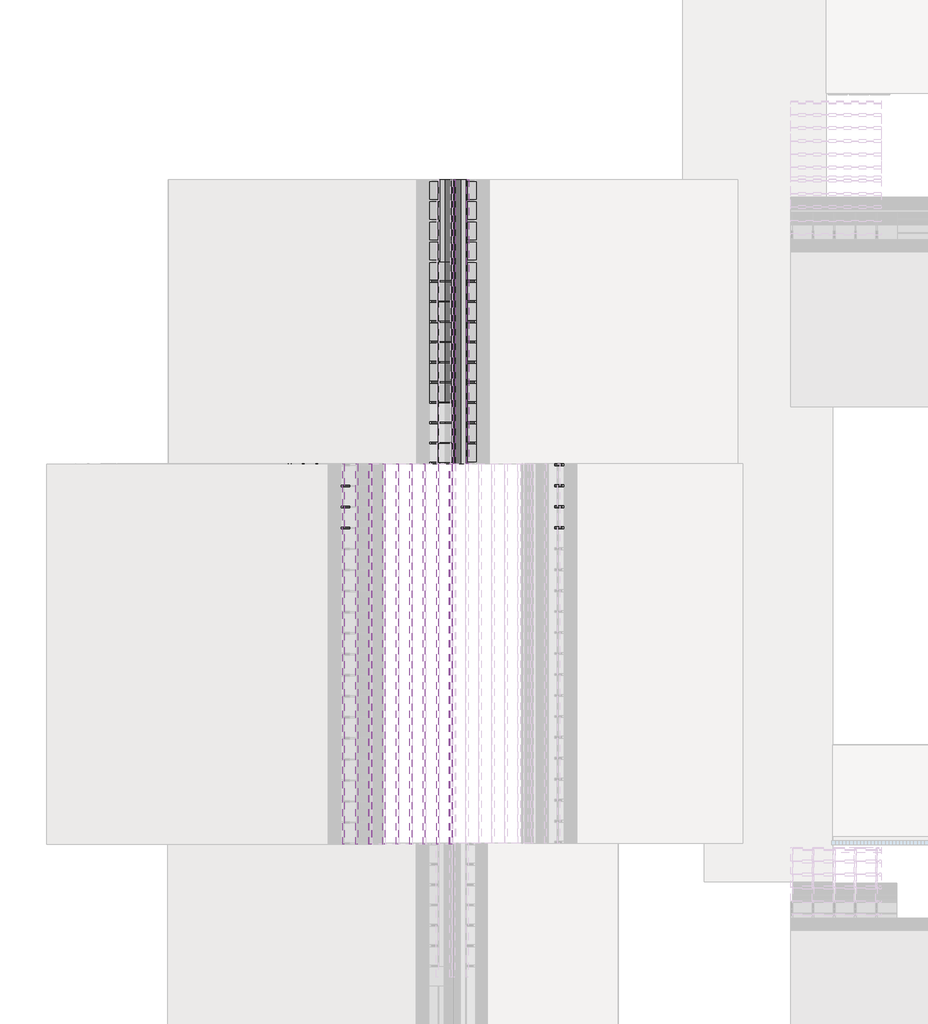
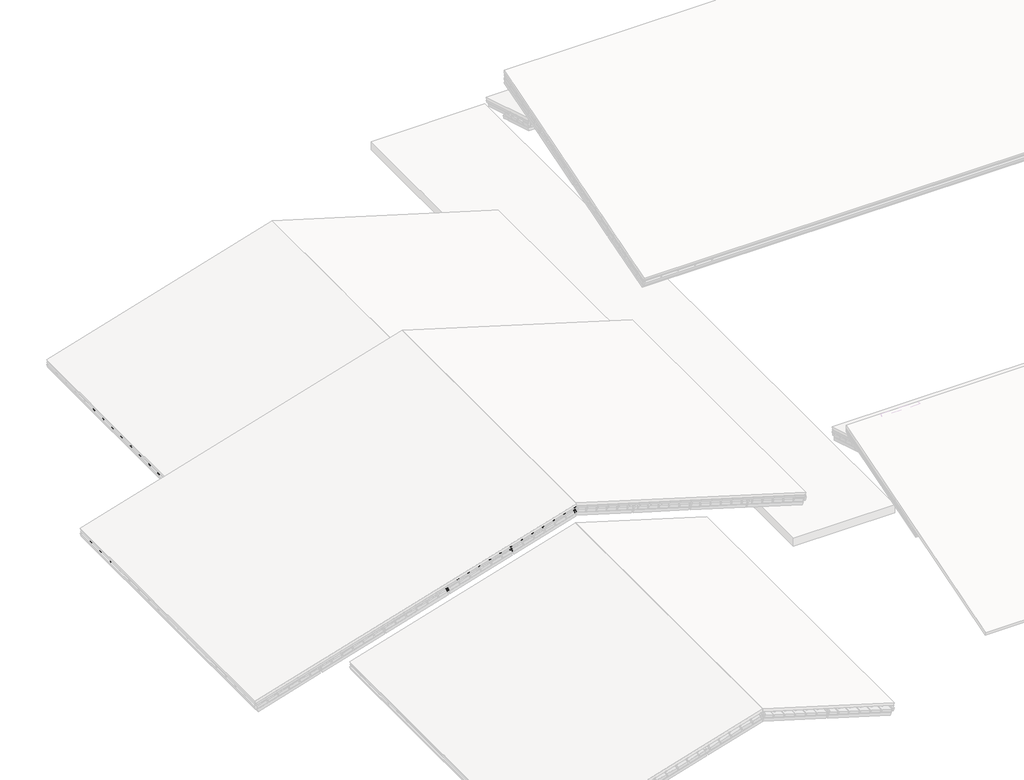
# One storey, part 5 of 57: 67 members, 54 plates.
"""IFC4 building model written with IfcOpenShell, lengths in millimetres."""

from ifc_helpers import new_model, si_unit, origin, place, context, project, spatial, transform, mapped, element, save
from components import rectangular_mullion_77964d67, rectangular_mullion_b55daf23, rectangular_mullion_698b6ac7, rectangular_mullion_2b643e74, rectangular_mullion_27214645, rectangular_mullion_a8aa870b, rectangular_mullion_caibro_1cbfab12, rectangular_mullion_caibro_0a25a9c4, rectangular_mullion_caibro_a2a3702c, rectangular_mullion_caibro_03bd0296, rectangular_mullion_caibro_00db0e03, rectangular_mullion_caibro_3e452d7c, empty_system_panel_vazio_6e7ed4e6, empty_system_panel_vazio_172ca776, empty_system_panel_vazio_baf5ca11, empty_system_panel_vazio_8cae14d4, empty_system_panel_vazio_9a4384e5

model = new_model("IFC4")

# Units and contexts
model_context = context("Model", 3, world=origin())
ifc_project = project(units=[si_unit("LENGTHUNIT", "METRE", prefix="MILLI")], contexts=[model_context])

# Site, building, storey
site = spatial("IfcSite", under=ifc_project)
building = spatial("IfcBuilding", under=site)
storey = spatial("IfcBuildingStorey", under=building, Name="Nível 2", Elevation=4100.0)

# Members
placement = place(None, origin())
rectangular_mullion_shape = rectangular_mullion_77964d67(model_context)
element("IfcMember", 1, ObjectType="Rectangular Mullion : Ripa", at=placement, inside=storey, context=model_context, shape_type="MappedRepresentation", body=[
    mapped(rectangular_mullion_shape, transform((-67.0690911, 26350.3088684, 3109.7769943), x_axis=(-0.9578262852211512, 0.0, 0.287347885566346), y_axis=(-0.287347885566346, 0.0, -0.9578262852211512), z_axis=(0.0, -1.0, 0.0))),
])
element("IfcMember", 2, ObjectType="Rectangular Mullion : Ripa", at=placement, inside=storey, context=model_context, shape_type="MappedRepresentation", body=[
    mapped(rectangular_mullion_shape, transform((-434.0406319, 26350.3088684, 3219.8684565), x_axis=(-0.9578262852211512, 0.0, 0.287347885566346), y_axis=(-0.287347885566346, 0.0, -0.9578262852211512), z_axis=(0.0, -1.0, 0.0))),
])
element("IfcMember", 3, ObjectType="Rectangular Mullion : Ripa", at=placement, inside=storey, context=model_context, shape_type="MappedRepresentation", body=[
    mapped(rectangular_mullion_shape, transform((-801.0121727, 26350.3088684, 3329.9599187), x_axis=(-0.9578262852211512, 0.0, 0.287347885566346), y_axis=(-0.287347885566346, 0.0, -0.9578262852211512), z_axis=(0.0, -1.0, 0.0))),
])
element("IfcMember", 4, ObjectType="Rectangular Mullion : Ripa", at=placement, inside=storey, context=model_context, shape_type="MappedRepresentation", body=[
    mapped(rectangular_mullion_shape, transform((-1167.9837135, 26350.3088684, 3440.051381), x_axis=(-0.9578262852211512, 0.0, 0.287347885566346), y_axis=(-0.287347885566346, 0.0, -0.9578262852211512), z_axis=(0.0, -1.0, 0.0))),
])
element("IfcMember", 5, ObjectType="Rectangular Mullion : Ripa", at=placement, inside=storey, context=model_context, shape_type="MappedRepresentation", body=[
    mapped(rectangular_mullion_shape, transform((-1534.9552543, 26350.3088684, 3550.1428432), x_axis=(-0.9578262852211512, 0.0, 0.287347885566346), y_axis=(-0.287347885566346, 0.0, -0.9578262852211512), z_axis=(0.0, -1.0, 0.0))),
])
element("IfcMember", 6, ObjectType="Rectangular Mullion : Ripa", at=placement, inside=storey, context=model_context, shape_type="MappedRepresentation", body=[
    mapped(rectangular_mullion_shape, transform((-1901.926795, 26350.3088684, 3660.2343054), x_axis=(-0.9578262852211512, 0.0, 0.287347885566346), y_axis=(-0.287347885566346, 0.0, -0.9578262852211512), z_axis=(0.0, -1.0, 0.0))),
])
element("IfcMember", 7, ObjectType="Rectangular Mullion : Ripa", at=placement, inside=storey, context=model_context, shape_type="MappedRepresentation", body=[
    mapped(rectangular_mullion_shape, transform((-2268.8983358, 26350.3088684, 3770.3257677), x_axis=(-0.9578262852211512, 0.0, 0.287347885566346), y_axis=(-0.287347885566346, 0.0, -0.9578262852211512), z_axis=(0.0, -1.0, 0.0))),
])
element("IfcMember", 8, ObjectType="Rectangular Mullion : Ripa", at=placement, inside=storey, context=model_context, shape_type="MappedRepresentation", body=[
    mapped(rectangular_mullion_shape, transform((-2635.8698766, 26350.3088684, 3880.4172299), x_axis=(-0.9578262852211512, 0.0, 0.287347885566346), y_axis=(-0.287347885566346, 0.0, -0.9578262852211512), z_axis=(0.0, -1.0, 0.0))),
])
element("IfcMember", 9, ObjectType="Rectangular Mullion : Ripa", at=placement, inside=storey, context=model_context, shape_type="MappedRepresentation", body=[
    mapped(rectangular_mullion_shape, transform((-3002.8414174, 26350.3088684, 3990.5086921), x_axis=(-0.9578262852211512, 0.0, 0.287347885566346), y_axis=(-0.287347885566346, 0.0, -0.9578262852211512), z_axis=(0.0, -1.0, 0.0))),
])
element("IfcMember", 10, ObjectType="Rectangular Mullion : Ripa", at=placement, inside=storey, context=model_context, shape_type="MappedRepresentation", body=[
    mapped(rectangular_mullion_shape, transform((-3369.8129582, 26350.3088684, 4100.6001544), x_axis=(-0.9578262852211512, 0.0, 0.287347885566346), y_axis=(-0.287347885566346, 0.0, -0.9578262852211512), z_axis=(0.0, -1.0, 0.0))),
])
element("IfcMember", 11, ObjectType="Rectangular Mullion : Ripa", at=placement, inside=storey, context=model_context, shape_type="MappedRepresentation", body=[
    mapped(rectangular_mullion_shape, transform((-3736.7844989, 26350.3088684, 4210.6916166), x_axis=(-0.9578262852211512, 0.0, 0.287347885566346), y_axis=(-0.287347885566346, 0.0, -0.9578262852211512), z_axis=(0.0, -1.0, 0.0))),
])
element("IfcMember", 12, ObjectType="Rectangular Mullion : Ripa", at=placement, inside=storey, context=model_context, shape_type="MappedRepresentation", body=[
    mapped(rectangular_mullion_shape, transform((-4103.7560397, 26350.3088684, 4320.7830788), x_axis=(-0.9578262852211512, 0.0, 0.287347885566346), y_axis=(-0.287347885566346, 0.0, -0.9578262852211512), z_axis=(0.0, -1.0, 0.0))),
])
element("IfcMember", 13, ObjectType="Rectangular Mullion : Ripa", at=placement, inside=storey, context=model_context, shape_type="MappedRepresentation", body=[
    mapped(rectangular_mullion_shape, transform((-4470.7275805, 26350.3088684, 4430.8745411), x_axis=(-0.9578262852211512, 0.0, 0.287347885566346), y_axis=(-0.287347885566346, 0.0, -0.9578262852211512), z_axis=(0.0, -1.0, 0.0))),
])
element("IfcMember", 14, ObjectType="Rectangular Mullion : Ripa", at=placement, inside=storey, context=model_context, shape_type="MappedRepresentation", body=[
    mapped(rectangular_mullion_shape, transform((-4837.6991213, 26350.3088684, 4540.9660033), x_axis=(-0.9578262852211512, 0.0, 0.287347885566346), y_axis=(-0.287347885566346, 0.0, -0.9578262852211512), z_axis=(0.0, -1.0, 0.0))),
])
element("IfcMember", 15, ObjectType="Rectangular Mullion : Ripa", at=placement, inside=storey, context=model_context, shape_type="MappedRepresentation", body=[
    mapped(rectangular_mullion_shape, transform((-5204.6706621, 26350.3088684, 4651.0574655), x_axis=(-0.9578262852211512, 0.0, 0.287347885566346), y_axis=(-0.287347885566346, 0.0, -0.9578262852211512), z_axis=(0.0, -1.0, 0.0))),
])
element("IfcMember", 16, ObjectType="Rectangular Mullion : Ripa", at=placement, inside=storey, context=model_context, shape_type="MappedRepresentation", body=[
    mapped(rectangular_mullion_shape, transform((-5571.6422028, 26350.3088684, 4761.1489278), x_axis=(-0.9578262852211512, 0.0, 0.287347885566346), y_axis=(-0.287347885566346, 0.0, -0.9578262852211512), z_axis=(0.0, -1.0, 0.0))),
])
element("IfcMember", 17, ObjectType="Rectangular Mullion : Ripa", at=placement, inside=storey, context=model_context, shape_type="MappedRepresentation", body=[
    mapped(rectangular_mullion_shape, transform((-5938.6137436, 26350.3088684, 4871.24039), x_axis=(-0.9578262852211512, 0.0, 0.287347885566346), y_axis=(-0.287347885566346, 0.0, -0.9578262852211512), z_axis=(0.0, -1.0, 0.0))),
])
element("IfcMember", 18, ObjectType="Rectangular Mullion : Ripa", at=placement, inside=storey, context=model_context, shape_type="MappedRepresentation", body=[
    mapped(rectangular_mullion_shape, transform((-6305.5852844, 26350.3088684, 4981.3318522), x_axis=(-0.9578262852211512, 0.0, 0.287347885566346), y_axis=(-0.287347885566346, 0.0, -0.9578262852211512), z_axis=(0.0, -1.0, 0.0))),
])
element("IfcMember", 19, ObjectType="Rectangular Mullion : Ripa", at=placement, inside=storey, context=model_context, shape_type="MappedRepresentation", body=[
    mapped(rectangular_mullion_shape, transform((-6672.5568252, 26350.3088684, 5091.4233145), x_axis=(-0.9578262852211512, 0.0, 0.287347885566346), y_axis=(-0.287347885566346, 0.0, -0.9578262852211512), z_axis=(0.0, -1.0, 0.0))),
])
element("IfcMember", 20, ObjectType="Rectangular Mullion : Ripa", at=placement, inside=storey, context=model_context, shape_type="MappedRepresentation", body=[
    mapped(rectangular_mullion_shape, transform((-7039.528366, 26350.3088684, 5201.5147767), x_axis=(-0.9578262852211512, 0.0, 0.287347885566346), y_axis=(-0.287347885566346, 0.0, -0.9578262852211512), z_axis=(0.0, -1.0, 0.0))),
])
element("IfcMember", 21, ObjectType="Rectangular Mullion : Ripa", at=placement, inside=storey, context=model_context, shape_type="MappedRepresentation", body=[
    mapped(rectangular_mullion_shape, transform((-7406.4999067, 26350.3088684, 5311.6062389), x_axis=(-0.9578262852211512, 0.0, 0.287347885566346), y_axis=(-0.287347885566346, 0.0, -0.9578262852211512), z_axis=(0.0, -1.0, 0.0))),
])
element("IfcMember", 22, ObjectType="Rectangular Mullion : Ripa", at=placement, inside=storey, context=model_context, shape_type="MappedRepresentation", body=[
    mapped(rectangular_mullion_shape, transform((-7773.4714475, 26350.3088684, 5421.6977012), x_axis=(-0.9578262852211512, 0.0, 0.287347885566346), y_axis=(-0.287347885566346, 0.0, -0.9578262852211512), z_axis=(0.0, -1.0, 0.0))),
])
rectangular_mullion_2_shape = rectangular_mullion_b55daf23(model_context)
element("IfcMember", 23, ObjectType="Rectangular Mullion : Terça", at=placement, inside=storey, context=model_context, shape_type="MappedRepresentation", body=[
    mapped(rectangular_mullion_2_shape, transform((-7773.4714475, 26350.3088684, 5296.4140231), x_axis=(-0.9578262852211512, 0.0, 0.287347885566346), y_axis=(-0.287347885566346, 0.0, -0.9578262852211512), z_axis=(0.0, -1.0, 0.0))),
])
rectangular_mullion_3_shape = rectangular_mullion_698b6ac7(model_context)
element("IfcMember", 24, ObjectType="Rectangular Mullion : Terça", at=placement, inside=storey, context=model_context, shape_type="MappedRepresentation", body=[
    mapped(rectangular_mullion_3_shape, transform((-1696.8899332, 26350.3088684, 3473.4395688), x_axis=(-0.9578262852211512, 0.0, 0.287347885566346), y_axis=(-0.287347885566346, 0.0, -0.9578262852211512), z_axis=(0.0, -1.0, 0.0))),
])
element("IfcMember", 25, ObjectType="Rectangular Mullion : Terça", at=placement, inside=storey, context=model_context, shape_type="MappedRepresentation", body=[
    mapped(rectangular_mullion_3_shape, transform((-3712.8388418, 26350.3088684, 4078.2242414), x_axis=(-0.9578262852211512, 0.0, 0.287347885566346), y_axis=(-0.287347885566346, 0.0, -0.9578262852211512), z_axis=(0.0, -1.0, 0.0))),
])
element("IfcMember", 26, ObjectType="Rectangular Mullion : Terça", at=placement, inside=storey, context=model_context, shape_type="MappedRepresentation", body=[
    mapped(rectangular_mullion_3_shape, transform((-5728.7877504, 26350.3088684, 4683.0089139), x_axis=(-0.9578262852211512, 0.0, 0.287347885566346), y_axis=(-0.287347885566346, 0.0, -0.9578262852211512), z_axis=(0.0, -1.0, 0.0))),
])
rectangular_mullion_4_shape = rectangular_mullion_2b643e74(model_context)
element("IfcMember", 27, ObjectType="Rectangular Mullion : Ripa", at=placement, inside=storey, context=model_context, shape_type="MappedRepresentation", body=[
    mapped(rectangular_mullion_4_shape, transform((-11943.9606945, 26350.3088684, 4918.0675509), x_axis=(0.9578262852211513, 0.0, 0.2873478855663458), y_axis=(0.2873478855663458, 0.0, -0.9578262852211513), z_axis=(0.0, 1.0, 0.0))),
])
element("IfcMember", 28, ObjectType="Rectangular Mullion : Ripa", at=placement, inside=storey, context=model_context, shape_type="MappedRepresentation", body=[
    mapped(rectangular_mullion_4_shape, transform((-11566.1743753, 26350.3088684, 5031.4034467), x_axis=(0.9578262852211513, 0.0, 0.2873478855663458), y_axis=(0.2873478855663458, 0.0, -0.9578262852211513), z_axis=(0.0, 1.0, 0.0))),
])
element("IfcMember", 29, ObjectType="Rectangular Mullion : Ripa", at=placement, inside=storey, context=model_context, shape_type="MappedRepresentation", body=[
    mapped(rectangular_mullion_4_shape, transform((-11188.3880562, 26350.3088684, 5144.7393424), x_axis=(0.9578262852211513, 0.0, 0.2873478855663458), y_axis=(0.2873478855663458, 0.0, -0.9578262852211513), z_axis=(0.0, 1.0, 0.0))),
])
element("IfcMember", 30, ObjectType="Rectangular Mullion : Ripa", at=placement, inside=storey, context=model_context, shape_type="MappedRepresentation", body=[
    mapped(rectangular_mullion_4_shape, transform((-10810.6017371, 26350.3088684, 5258.0752381), x_axis=(0.9578262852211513, 0.0, 0.2873478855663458), y_axis=(0.2873478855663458, 0.0, -0.9578262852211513), z_axis=(0.0, 1.0, 0.0))),
])
element("IfcMember", 31, ObjectType="Rectangular Mullion : Ripa", at=placement, inside=storey, context=model_context, shape_type="MappedRepresentation", body=[
    mapped(rectangular_mullion_4_shape, transform((-10432.815418, 26350.3088684, 5371.4111339), x_axis=(0.9578262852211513, 0.0, 0.2873478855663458), y_axis=(0.2873478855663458, 0.0, -0.9578262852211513), z_axis=(0.0, 1.0, 0.0))),
])
element("IfcMember", 32, ObjectType="Rectangular Mullion : Ripa", at=placement, inside=storey, context=model_context, shape_type="MappedRepresentation", body=[
    mapped(rectangular_mullion_4_shape, transform((-10055.0290989, 26350.3088684, 5484.7470296), x_axis=(0.9578262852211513, 0.0, 0.2873478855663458), y_axis=(0.2873478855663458, 0.0, -0.9578262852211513), z_axis=(0.0, 1.0, 0.0))),
])
element("IfcMember", 33, ObjectType="Rectangular Mullion : Ripa", at=placement, inside=storey, context=model_context, shape_type="MappedRepresentation", body=[
    mapped(rectangular_mullion_4_shape, transform((-9677.2427798, 26350.3088684, 5598.0829253), x_axis=(0.9578262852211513, 0.0, 0.2873478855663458), y_axis=(0.2873478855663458, 0.0, -0.9578262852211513), z_axis=(0.0, 1.0, 0.0))),
])
element("IfcMember", 34, ObjectType="Rectangular Mullion : Ripa", at=placement, inside=storey, context=model_context, shape_type="MappedRepresentation", body=[
    mapped(rectangular_mullion_4_shape, transform((-9299.4564607, 26350.3088684, 5711.418821), x_axis=(0.9578262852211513, 0.0, 0.2873478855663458), y_axis=(0.2873478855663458, 0.0, -0.9578262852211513), z_axis=(0.0, 1.0, 0.0))),
])
element("IfcMember", 35, ObjectType="Rectangular Mullion : Ripa", at=placement, inside=storey, context=model_context, shape_type="MappedRepresentation", body=[
    mapped(rectangular_mullion_4_shape, transform((-8921.6701416, 26350.3088684, 5824.7547168), x_axis=(0.9578262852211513, 0.0, 0.2873478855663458), y_axis=(0.2873478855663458, 0.0, -0.9578262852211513), z_axis=(0.0, 1.0, 0.0))),
])
element("IfcMember", 36, ObjectType="Rectangular Mullion : Ripa", at=placement, inside=storey, context=model_context, shape_type="MappedRepresentation", body=[
    mapped(rectangular_mullion_4_shape, transform((-8543.8838225, 26350.3088684, 5938.0906125), x_axis=(0.9578262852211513, 0.0, 0.2873478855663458), y_axis=(0.2873478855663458, 0.0, -0.9578262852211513), z_axis=(0.0, 1.0, 0.0))),
])
element("IfcMember", 37, ObjectType="Rectangular Mullion : Ripa", at=placement, inside=storey, context=model_context, shape_type="MappedRepresentation", body=[
    mapped(rectangular_mullion_4_shape, transform((-8166.0975034, 26350.3088684, 6051.4265082), x_axis=(0.9578262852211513, 0.0, 0.2873478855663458), y_axis=(0.2873478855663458, 0.0, -0.9578262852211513), z_axis=(0.0, 1.0, 0.0))),
])
element("IfcMember", 38, ObjectType="Rectangular Mullion : Ripa", at=placement, inside=storey, context=model_context, shape_type="MappedRepresentation", body=[
    mapped(rectangular_mullion_4_shape, transform((-7788.3111843, 26350.3088684, 6164.762404), x_axis=(0.9578262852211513, 0.0, 0.2873478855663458), y_axis=(0.2873478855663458, 0.0, -0.9578262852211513), z_axis=(0.0, 1.0, 0.0))),
])
rectangular_mullion_5_shape = rectangular_mullion_27214645(model_context)
element("IfcMember", 39, ObjectType="Rectangular Mullion : Terça", at=placement, inside=storey, context=model_context, shape_type="MappedRepresentation", body=[
    mapped(rectangular_mullion_5_shape, transform((-7788.3111843, 26350.3088684, 6039.4787259), x_axis=(0.9578262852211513, 0.0, 0.2873478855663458), y_axis=(0.2873478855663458, 0.0, -0.9578262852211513), z_axis=(0.0, 1.0, 0.0))),
])
rectangular_mullion_6_shape = rectangular_mullion_a8aa870b(model_context)
element("IfcMember", 40, ObjectType="Rectangular Mullion : Terça", at=placement, inside=storey, context=model_context, shape_type="MappedRepresentation", body=[
    mapped(rectangular_mullion_6_shape, transform((-12346.650497, 26350.3088684, 4671.9769321), x_axis=(0.9578262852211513, 0.0, 0.2873478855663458), y_axis=(0.2873478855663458, 0.0, -0.9578262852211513), z_axis=(0.0, 1.0, 0.0))),
])
element("IfcMember", 41, ObjectType="Rectangular Mullion : Terça", at=placement, inside=storey, context=model_context, shape_type="MappedRepresentation", body=[
    mapped(rectangular_mullion_6_shape, transform((-10081.8482349, 26350.3088684, 5351.4176107), x_axis=(0.9578262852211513, 0.0, 0.2873478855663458), y_axis=(0.2873478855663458, 0.0, -0.9578262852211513), z_axis=(0.0, 1.0, 0.0))),
])
rectangular_mullion_caibro_shape = rectangular_mullion_caibro_1cbfab12(model_context)
element("IfcMember", 42, ObjectType="Rectangular Mullion : Caibro", at=placement, inside=storey, context=model_context, shape_type="MappedRepresentation", body=[
    mapped(rectangular_mullion_caibro_shape, transform((-7773.4714475, 26350.3088684, 5421.6977012), x_axis=(0.0, -1.0, 0.0), y_axis=(0.28734788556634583, 0.0, -0.9578262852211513), z_axis=(0.9578262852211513, 0.0, 0.28734788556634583))),
])
rectangular_mullion_caibro_2_shape = rectangular_mullion_caibro_0a25a9c4(model_context)
element("IfcMember", 43, ObjectType="Rectangular Mullion : Caibro", at=placement, inside=storey, context=model_context, shape_type="MappedRepresentation", body=[
    mapped(rectangular_mullion_caibro_2_shape, transform((-7773.4714475, 31486.023154, 5421.6977012), x_axis=(0.0, -1.0, 0.0), y_axis=(0.28734788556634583, 0.0, -0.9578262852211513), z_axis=(0.9578262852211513, 0.0, 0.28734788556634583))),
])
element("IfcMember", 44, ObjectType="Rectangular Mullion : Caibro", at=placement, inside=storey, context=model_context, shape_type="MappedRepresentation", body=[
    mapped(rectangular_mullion_caibro_2_shape, transform((-7773.4714475, 30918.1660112, 5421.6977012), x_axis=(0.0, -1.0, 0.0), y_axis=(0.28734788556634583, 0.0, -0.9578262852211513), z_axis=(0.9578262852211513, 0.0, 0.28734788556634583))),
])
element("IfcMember", 45, ObjectType="Rectangular Mullion : Caibro", at=placement, inside=storey, context=model_context, shape_type="MappedRepresentation", body=[
    mapped(rectangular_mullion_caibro_2_shape, transform((-7773.4714475, 30350.3088684, 5421.6977012), x_axis=(0.0, -1.0, 0.0), y_axis=(0.28734788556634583, 0.0, -0.9578262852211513), z_axis=(0.9578262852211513, 0.0, 0.28734788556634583))),
])
element("IfcMember", 46, ObjectType="Rectangular Mullion : Caibro", at=placement, inside=storey, context=model_context, shape_type="MappedRepresentation", body=[
    mapped(rectangular_mullion_caibro_2_shape, transform((-7773.4714475, 29782.4517256, 5421.6977012), x_axis=(0.0, -1.0, 0.0), y_axis=(0.28734788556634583, 0.0, -0.9578262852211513), z_axis=(0.9578262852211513, 0.0, 0.28734788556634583))),
])
element("IfcMember", 47, ObjectType="Rectangular Mullion : Caibro", at=placement, inside=storey, context=model_context, shape_type="MappedRepresentation", body=[
    mapped(rectangular_mullion_caibro_2_shape, transform((-7773.4714475, 29214.5945827, 5421.6977012), x_axis=(0.0, -1.0, 0.0), y_axis=(0.28734788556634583, 0.0, -0.9578262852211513), z_axis=(0.9578262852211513, 0.0, 0.28734788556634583))),
])
element("IfcMember", 48, ObjectType="Rectangular Mullion : Caibro", at=placement, inside=storey, context=model_context, shape_type="MappedRepresentation", body=[
    mapped(rectangular_mullion_caibro_2_shape, transform((-7773.4714475, 28646.7374399, 5421.6977012), x_axis=(0.0, -1.0, 0.0), y_axis=(0.28734788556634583, 0.0, -0.9578262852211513), z_axis=(0.9578262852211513, 0.0, 0.28734788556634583))),
])
element("IfcMember", 49, ObjectType="Rectangular Mullion : Caibro", at=placement, inside=storey, context=model_context, shape_type="MappedRepresentation", body=[
    mapped(rectangular_mullion_caibro_2_shape, transform((-7773.4714475, 28078.8802971, 5421.6977012), x_axis=(0.0, -1.0, 0.0), y_axis=(0.28734788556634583, 0.0, -0.9578262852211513), z_axis=(0.9578262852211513, 0.0, 0.28734788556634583))),
])
element("IfcMember", 50, ObjectType="Rectangular Mullion : Caibro", at=placement, inside=storey, context=model_context, shape_type="MappedRepresentation", body=[
    mapped(rectangular_mullion_caibro_2_shape, transform((-7773.4714475, 27511.0231543, 5421.6977012), x_axis=(0.0, -1.0, 0.0), y_axis=(0.28734788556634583, 0.0, -0.9578262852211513), z_axis=(0.9578262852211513, 0.0, 0.28734788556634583))),
])
element("IfcMember", 51, ObjectType="Rectangular Mullion : Caibro", at=placement, inside=storey, context=model_context, shape_type="MappedRepresentation", body=[
    mapped(rectangular_mullion_caibro_2_shape, transform((-7773.4714475, 26943.1660115, 5421.6977012), x_axis=(0.0, -1.0, 0.0), y_axis=(0.28734788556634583, 0.0, -0.9578262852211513), z_axis=(0.9578262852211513, 0.0, 0.28734788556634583))),
])
rectangular_mullion_caibro_3_shape = rectangular_mullion_caibro_a2a3702c(model_context)
element("IfcMember", 52, ObjectType="Rectangular Mullion : Caibro", at=placement, inside=storey, context=model_context, shape_type="MappedRepresentation", body=[
    mapped(rectangular_mullion_caibro_3_shape, transform((-7773.4714475, 26943.1660115, 5421.6977012), x_axis=(0.0, 1.0, 0.0), y_axis=(-0.287347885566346, 0.0, -0.9578262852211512), z_axis=(-0.9578262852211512, 0.0, 0.287347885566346))),
])
element("IfcMember", 53, ObjectType="Rectangular Mullion : Caibro", at=placement, inside=storey, context=model_context, shape_type="MappedRepresentation", body=[
    mapped(rectangular_mullion_caibro_3_shape, transform((-7773.4714475, 27511.0231543, 5421.6977012), x_axis=(0.0, 1.0, 0.0), y_axis=(-0.287347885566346, 0.0, -0.9578262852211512), z_axis=(-0.9578262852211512, 0.0, 0.287347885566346))),
])
element("IfcMember", 54, ObjectType="Rectangular Mullion : Caibro", at=placement, inside=storey, context=model_context, shape_type="MappedRepresentation", body=[
    mapped(rectangular_mullion_caibro_3_shape, transform((-7773.4714475, 28078.8802971, 5421.6977012), x_axis=(0.0, 1.0, 0.0), y_axis=(-0.287347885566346, 0.0, -0.9578262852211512), z_axis=(-0.9578262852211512, 0.0, 0.287347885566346))),
])
element("IfcMember", 55, ObjectType="Rectangular Mullion : Caibro", at=placement, inside=storey, context=model_context, shape_type="MappedRepresentation", body=[
    mapped(rectangular_mullion_caibro_3_shape, transform((-7773.4714475, 28646.7374399, 5421.6977012), x_axis=(0.0, 1.0, 0.0), y_axis=(-0.287347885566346, 0.0, -0.9578262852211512), z_axis=(-0.9578262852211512, 0.0, 0.287347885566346))),
])
element("IfcMember", 56, ObjectType="Rectangular Mullion : Caibro", at=placement, inside=storey, context=model_context, shape_type="MappedRepresentation", body=[
    mapped(rectangular_mullion_caibro_3_shape, transform((-7773.4714475, 29214.5945827, 5421.6977012), x_axis=(0.0, 1.0, 0.0), y_axis=(-0.287347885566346, 0.0, -0.9578262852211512), z_axis=(-0.9578262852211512, 0.0, 0.287347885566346))),
])
element("IfcMember", 57, ObjectType="Rectangular Mullion : Caibro", at=placement, inside=storey, context=model_context, shape_type="MappedRepresentation", body=[
    mapped(rectangular_mullion_caibro_3_shape, transform((-7773.4714475, 29782.4517256, 5421.6977012), x_axis=(0.0, 1.0, 0.0), y_axis=(-0.287347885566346, 0.0, -0.9578262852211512), z_axis=(-0.9578262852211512, 0.0, 0.287347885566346))),
])
element("IfcMember", 58, ObjectType="Rectangular Mullion : Caibro", at=placement, inside=storey, context=model_context, shape_type="MappedRepresentation", body=[
    mapped(rectangular_mullion_caibro_3_shape, transform((-7773.4714475, 30350.3088684, 5421.6977012), x_axis=(0.0, 1.0, 0.0), y_axis=(-0.287347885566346, 0.0, -0.9578262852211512), z_axis=(-0.9578262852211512, 0.0, 0.287347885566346))),
])
element("IfcMember", 59, ObjectType="Rectangular Mullion : Caibro", at=placement, inside=storey, context=model_context, shape_type="MappedRepresentation", body=[
    mapped(rectangular_mullion_caibro_3_shape, transform((-7773.4714475, 30918.1660112, 5421.6977012), x_axis=(0.0, 1.0, 0.0), y_axis=(-0.287347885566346, 0.0, -0.9578262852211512), z_axis=(-0.9578262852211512, 0.0, 0.287347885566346))),
])
element("IfcMember", 60, ObjectType="Rectangular Mullion : Caibro", at=placement, inside=storey, context=model_context, shape_type="MappedRepresentation", body=[
    mapped(rectangular_mullion_caibro_3_shape, transform((-7773.4714475, 31486.023154, 5421.6977012), x_axis=(0.0, 1.0, 0.0), y_axis=(-0.287347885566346, 0.0, -0.9578262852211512), z_axis=(-0.9578262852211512, 0.0, 0.287347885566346))),
])
rectangular_mullion_caibro_4_shape = rectangular_mullion_caibro_03bd0296(model_context)
element("IfcMember", 61, ObjectType="Rectangular Mullion : Caibro", at=placement, inside=storey, context=model_context, shape_type="MappedRepresentation", body=[
    mapped(rectangular_mullion_caibro_4_shape, transform((-7788.3111843, 25733.6418412, 6164.762404), x_axis=(0.0, -1.0, 0.0), y_axis=(0.2873478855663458, 0.0, -0.9578262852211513), z_axis=(0.9578262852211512, 0.0, 0.2873478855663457))),
])
element("IfcMember", 62, ObjectType="Rectangular Mullion : Caibro", at=placement, inside=storey, context=model_context, shape_type="MappedRepresentation", body=[
    mapped(rectangular_mullion_caibro_4_shape, transform((-7788.3111843, 25141.9748144, 6164.762404), x_axis=(0.0, -1.0, 0.0), y_axis=(0.2873478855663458, 0.0, -0.9578262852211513), z_axis=(0.9578262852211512, 0.0, 0.2873478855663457))),
])
element("IfcMember", 63, ObjectType="Rectangular Mullion : Caibro", at=placement, inside=storey, context=model_context, shape_type="MappedRepresentation", body=[
    mapped(rectangular_mullion_caibro_4_shape, transform((-7788.3111843, 24550.3077875, 6164.762404), x_axis=(0.0, -1.0, 0.0), y_axis=(0.2873478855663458, 0.0, -0.9578262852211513), z_axis=(0.9578262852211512, 0.0, 0.2873478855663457))),
])
rectangular_mullion_caibro_5_shape = rectangular_mullion_caibro_00db0e03(model_context)
element("IfcMember", 64, ObjectType="Rectangular Mullion : Caibro", at=placement, inside=storey, context=model_context, shape_type="MappedRepresentation", body=[
    mapped(rectangular_mullion_caibro_5_shape, transform((-7788.3111843, 26350.3088684, 6164.8996222), x_axis=(0.0, 1.0, 0.0), y_axis=(-0.287347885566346, 0.0, -0.9578262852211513), z_axis=(-0.9578262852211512, 0.0, 0.28734788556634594))),
])
rectangular_mullion_caibro_6_shape = rectangular_mullion_caibro_3e452d7c(model_context)
element("IfcMember", 65, ObjectType="Rectangular Mullion : Caibro", at=placement, inside=storey, context=model_context, shape_type="MappedRepresentation", body=[
    mapped(rectangular_mullion_caibro_6_shape, transform((-7788.3111843, 24556.9525183, 6164.8996222), x_axis=(0.0, 1.0, 0.0), y_axis=(-0.287347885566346, 0.0, -0.9578262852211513), z_axis=(-0.9578262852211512, 0.0, 0.28734788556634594))),
])
element("IfcMember", 66, ObjectType="Rectangular Mullion : Caibro", at=placement, inside=storey, context=model_context, shape_type="MappedRepresentation", body=[
    mapped(rectangular_mullion_caibro_6_shape, transform((-7788.3111843, 25146.4046349, 6164.8996222), x_axis=(0.0, 1.0, 0.0), y_axis=(-0.287347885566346, 0.0, -0.9578262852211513), z_axis=(-0.9578262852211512, 0.0, 0.28734788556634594))),
])
element("IfcMember", 67, ObjectType="Rectangular Mullion : Caibro", at=placement, inside=storey, context=model_context, shape_type="MappedRepresentation", body=[
    mapped(rectangular_mullion_caibro_6_shape, transform((-7788.3111843, 25735.8567515, 6164.8996222), x_axis=(0.0, 1.0, 0.0), y_axis=(-0.287347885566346, 0.0, -0.9578262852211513), z_axis=(-0.9578262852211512, 0.0, 0.28734788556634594))),
])

# Plates
empty_system_panel_vazio_shape = empty_system_panel_vazio_6e7ed4e6(model_context)
element("IfcPlate", 68, ObjectType="Empty System Panel : Vazio", at=placement, inside=storey, context=model_context, shape_type="MappedRepresentation", body=[
    mapped(empty_system_panel_vazio_shape, transform((-15696.8453447, 30350.3088684, 3044.685532), x_axis=(0.0, -1.0, 0.0), y_axis=(0.2873478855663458, 0.0, -0.9578262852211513), z_axis=(0.9578262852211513, 0.0, 0.2873478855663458))),
])
element("IfcPlate", 69, ObjectType="Empty System Panel : Vazio", at=placement, inside=storey, context=model_context, shape_type="MappedRepresentation", body=[
    mapped(empty_system_panel_vazio_shape, transform((-15319.5418258, 30350.3088684, 3157.8765877), x_axis=(0.0, -1.0, 0.0), y_axis=(0.2873478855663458, 0.0, -0.9578262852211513), z_axis=(0.9578262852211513, 0.0, 0.2873478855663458))),
])
element("IfcPlate", 70, ObjectType="Empty System Panel : Vazio", at=placement, inside=storey, context=model_context, shape_type="MappedRepresentation", body=[
    mapped(empty_system_panel_vazio_shape, transform((-14942.2383069, 30350.3088684, 3271.0676434), x_axis=(0.0, -1.0, 0.0), y_axis=(0.2873478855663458, 0.0, -0.9578262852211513), z_axis=(0.9578262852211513, 0.0, 0.2873478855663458))),
])
element("IfcPlate", 71, ObjectType="Empty System Panel : Vazio", at=placement, inside=storey, context=model_context, shape_type="MappedRepresentation", body=[
    mapped(empty_system_panel_vazio_shape, transform((-14564.934788, 30350.3088684, 3384.2586991), x_axis=(0.0, -1.0, 0.0), y_axis=(0.2873478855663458, 0.0, -0.9578262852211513), z_axis=(0.9578262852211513, 0.0, 0.2873478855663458))),
])
element("IfcPlate", 72, ObjectType="Empty System Panel : Vazio", at=placement, inside=storey, context=model_context, shape_type="MappedRepresentation", body=[
    mapped(empty_system_panel_vazio_shape, transform((-14187.6312691, 30350.3088684, 3497.4497547), x_axis=(0.0, -1.0, 0.0), y_axis=(0.2873478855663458, 0.0, -0.9578262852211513), z_axis=(0.9578262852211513, 0.0, 0.2873478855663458))),
])
element("IfcPlate", 73, ObjectType="Empty System Panel : Vazio", at=placement, inside=storey, context=model_context, shape_type="MappedRepresentation", body=[
    mapped(empty_system_panel_vazio_shape, transform((-13810.3277501, 30350.3088684, 3610.6408104), x_axis=(0.0, -1.0, 0.0), y_axis=(0.2873478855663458, 0.0, -0.9578262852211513), z_axis=(0.9578262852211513, 0.0, 0.2873478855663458))),
])
element("IfcPlate", 74, ObjectType="Empty System Panel : Vazio", at=placement, inside=storey, context=model_context, shape_type="MappedRepresentation", body=[
    mapped(empty_system_panel_vazio_shape, transform((-13433.0242312, 30350.3088684, 3723.8318661), x_axis=(0.0, -1.0, 0.0), y_axis=(0.2873478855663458, 0.0, -0.9578262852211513), z_axis=(0.9578262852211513, 0.0, 0.2873478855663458))),
])
element("IfcPlate", 75, ObjectType="Empty System Panel : Vazio", at=placement, inside=storey, context=model_context, shape_type="MappedRepresentation", body=[
    mapped(empty_system_panel_vazio_shape, transform((-13055.7207123, 30350.3088684, 3837.0229217), x_axis=(0.0, -1.0, 0.0), y_axis=(0.2873478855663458, 0.0, -0.9578262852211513), z_axis=(0.9578262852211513, 0.0, 0.2873478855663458))),
])
element("IfcPlate", 76, ObjectType="Empty System Panel : Vazio", at=placement, inside=storey, context=model_context, shape_type="MappedRepresentation", body=[
    mapped(empty_system_panel_vazio_shape, transform((-12678.4171934, 30350.3088684, 3950.2139774), x_axis=(0.0, -1.0, 0.0), y_axis=(0.2873478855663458, 0.0, -0.9578262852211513), z_axis=(0.9578262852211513, 0.0, 0.2873478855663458))),
])
element("IfcPlate", 77, ObjectType="Empty System Panel : Vazio", at=placement, inside=storey, context=model_context, shape_type="MappedRepresentation", body=[
    mapped(empty_system_panel_vazio_shape, transform((-12301.1136745, 30350.3088684, 4063.4050331), x_axis=(0.0, -1.0, 0.0), y_axis=(0.2873478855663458, 0.0, -0.9578262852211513), z_axis=(0.9578262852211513, 0.0, 0.2873478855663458))),
])
element("IfcPlate", 78, ObjectType="Empty System Panel : Vazio", at=placement, inside=storey, context=model_context, shape_type="MappedRepresentation", body=[
    mapped(empty_system_panel_vazio_shape, transform((-11923.8101556, 30350.3088684, 4176.5960888), x_axis=(0.0, -1.0, 0.0), y_axis=(0.2873478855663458, 0.0, -0.9578262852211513), z_axis=(0.9578262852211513, 0.0, 0.2873478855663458))),
])
element("IfcPlate", 79, ObjectType="Empty System Panel : Vazio", at=placement, inside=storey, context=model_context, shape_type="MappedRepresentation", body=[
    mapped(empty_system_panel_vazio_shape, transform((-11546.5066367, 30350.3088684, 4289.7871444), x_axis=(0.0, -1.0, 0.0), y_axis=(0.2873478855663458, 0.0, -0.9578262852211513), z_axis=(0.9578262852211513, 0.0, 0.2873478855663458))),
])
element("IfcPlate", 80, ObjectType="Empty System Panel : Vazio", at=placement, inside=storey, context=model_context, shape_type="MappedRepresentation", body=[
    mapped(empty_system_panel_vazio_shape, transform((-11169.2031177, 30350.3088684, 4402.9782001), x_axis=(0.0, -1.0, 0.0), y_axis=(0.2873478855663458, 0.0, -0.9578262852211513), z_axis=(0.9578262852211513, 0.0, 0.2873478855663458))),
])
element("IfcPlate", 81, ObjectType="Empty System Panel : Vazio", at=placement, inside=storey, context=model_context, shape_type="MappedRepresentation", body=[
    mapped(empty_system_panel_vazio_shape, transform((-10791.8995988, 30350.3088684, 4516.1692558), x_axis=(0.0, -1.0, 0.0), y_axis=(0.2873478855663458, 0.0, -0.9578262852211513), z_axis=(0.9578262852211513, 0.0, 0.2873478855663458))),
])
element("IfcPlate", 82, ObjectType="Empty System Panel : Vazio", at=placement, inside=storey, context=model_context, shape_type="MappedRepresentation", body=[
    mapped(empty_system_panel_vazio_shape, transform((-10414.5960799, 30350.3088684, 4629.3603115), x_axis=(0.0, -1.0, 0.0), y_axis=(0.2873478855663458, 0.0, -0.9578262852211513), z_axis=(0.9578262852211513, 0.0, 0.2873478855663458))),
])
element("IfcPlate", 83, ObjectType="Empty System Panel : Vazio", at=placement, inside=storey, context=model_context, shape_type="MappedRepresentation", body=[
    mapped(empty_system_panel_vazio_shape, transform((-10037.292561, 30350.3088684, 4742.5513671), x_axis=(0.0, -1.0, 0.0), y_axis=(0.2873478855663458, 0.0, -0.9578262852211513), z_axis=(0.9578262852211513, 0.0, 0.2873478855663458))),
])
element("IfcPlate", 84, ObjectType="Empty System Panel : Vazio", at=placement, inside=storey, context=model_context, shape_type="MappedRepresentation", body=[
    mapped(empty_system_panel_vazio_shape, transform((-9659.9890421, 30350.3088684, 4855.7424228), x_axis=(0.0, -1.0, 0.0), y_axis=(0.2873478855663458, 0.0, -0.9578262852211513), z_axis=(0.9578262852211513, 0.0, 0.2873478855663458))),
])
element("IfcPlate", 85, ObjectType="Empty System Panel : Vazio", at=placement, inside=storey, context=model_context, shape_type="MappedRepresentation", body=[
    mapped(empty_system_panel_vazio_shape, transform((-9282.6855232, 30350.3088684, 4968.9334785), x_axis=(0.0, -1.0, 0.0), y_axis=(0.2873478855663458, 0.0, -0.9578262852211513), z_axis=(0.9578262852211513, 0.0, 0.2873478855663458))),
])
element("IfcPlate", 86, ObjectType="Empty System Panel : Vazio", at=placement, inside=storey, context=model_context, shape_type="MappedRepresentation", body=[
    mapped(empty_system_panel_vazio_shape, transform((-8905.3820043, 30350.3088684, 5082.1245342), x_axis=(0.0, -1.0, 0.0), y_axis=(0.2873478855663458, 0.0, -0.9578262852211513), z_axis=(0.9578262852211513, 0.0, 0.2873478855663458))),
])
element("IfcPlate", 87, ObjectType="Empty System Panel : Vazio", at=placement, inside=storey, context=model_context, shape_type="MappedRepresentation", body=[
    mapped(empty_system_panel_vazio_shape, transform((-8528.0784854, 30350.3088684, 5195.3155898), x_axis=(0.0, -1.0, 0.0), y_axis=(0.2873478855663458, 0.0, -0.9578262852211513), z_axis=(0.9578262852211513, 0.0, 0.2873478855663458))),
])
element("IfcPlate", 88, ObjectType="Empty System Panel : Vazio", at=placement, inside=storey, context=model_context, shape_type="MappedRepresentation", body=[
    mapped(empty_system_panel_vazio_shape, transform((-8150.7749664, 30350.3088684, 5308.5066455), x_axis=(0.0, -1.0, 0.0), y_axis=(0.2873478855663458, 0.0, -0.9578262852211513), z_axis=(0.9578262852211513, 0.0, 0.2873478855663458))),
])
empty_system_panel_vazio_2_shape = empty_system_panel_vazio_172ca776(model_context)
element("IfcPlate", 89, ObjectType="Empty System Panel : Vazio", at=placement, inside=storey, context=model_context, shape_type="MappedRepresentation", body=[
    mapped(empty_system_panel_vazio_2_shape, transform((-15744.736659, 31769.9517254, 3030.3181378), x_axis=(0.0, -1.0, 0.0), y_axis=(0.2873478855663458, 0.0, -0.9578262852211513), z_axis=(0.9578262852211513, 0.0, 0.2873478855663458))),
])
element("IfcPlate", 90, ObjectType="Empty System Panel : Vazio", at=placement, inside=storey, context=model_context, shape_type="MappedRepresentation", body=[
    mapped(empty_system_panel_vazio_2_shape, transform((-15744.736659, 31202.0945826, 3030.3181378), x_axis=(0.0, -1.0, 0.0), y_axis=(0.2873478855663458, 0.0, -0.9578262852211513), z_axis=(0.9578262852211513, 0.0, 0.2873478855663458))),
])
element("IfcPlate", 91, ObjectType="Empty System Panel : Vazio", at=placement, inside=storey, context=model_context, shape_type="MappedRepresentation", body=[
    mapped(empty_system_panel_vazio_2_shape, transform((-15744.736659, 30634.2374398, 3030.3181378), x_axis=(0.0, -1.0, 0.0), y_axis=(0.2873478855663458, 0.0, -0.9578262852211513), z_axis=(0.9578262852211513, 0.0, 0.2873478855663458))),
])
element("IfcPlate", 92, ObjectType="Empty System Panel : Vazio", at=placement, inside=storey, context=model_context, shape_type="MappedRepresentation", body=[
    mapped(empty_system_panel_vazio_2_shape, transform((-15744.736659, 30066.380297, 3030.3181378), x_axis=(0.0, -1.0, 0.0), y_axis=(0.2873478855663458, 0.0, -0.9578262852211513), z_axis=(0.9578262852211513, 0.0, 0.2873478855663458))),
])
element("IfcPlate", 93, ObjectType="Empty System Panel : Vazio", at=placement, inside=storey, context=model_context, shape_type="MappedRepresentation", body=[
    mapped(empty_system_panel_vazio_2_shape, transform((-15744.736659, 29498.5231542, 3030.3181378), x_axis=(0.0, -1.0, 0.0), y_axis=(0.2873478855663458, 0.0, -0.9578262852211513), z_axis=(0.9578262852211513, 0.0, 0.2873478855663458))),
])
element("IfcPlate", 94, ObjectType="Empty System Panel : Vazio", at=placement, inside=storey, context=model_context, shape_type="MappedRepresentation", body=[
    mapped(empty_system_panel_vazio_2_shape, transform((-15744.736659, 28930.6660113, 3030.3181378), x_axis=(0.0, -1.0, 0.0), y_axis=(0.2873478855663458, 0.0, -0.9578262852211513), z_axis=(0.9578262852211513, 0.0, 0.2873478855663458))),
])
element("IfcPlate", 95, ObjectType="Empty System Panel : Vazio", at=placement, inside=storey, context=model_context, shape_type="MappedRepresentation", body=[
    mapped(empty_system_panel_vazio_2_shape, transform((-15744.736659, 28362.8088685, 3030.3181378), x_axis=(0.0, -1.0, 0.0), y_axis=(0.2873478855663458, 0.0, -0.9578262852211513), z_axis=(0.9578262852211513, 0.0, 0.2873478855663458))),
])
empty_system_panel_vazio_3_shape = empty_system_panel_vazio_baf5ca11(model_context)
element("IfcPlate", 96, ObjectType="Empty System Panel : Vazio", at=placement, inside=storey, context=model_context, shape_type="MappedRepresentation", body=[
    mapped(empty_system_panel_vazio_3_shape, transform((-15687.2670819, 30350.3088684, 2922.2753328), x_axis=(0.0, -1.0, 0.0), y_axis=(0.2873478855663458, 0.0, -0.9578262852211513), z_axis=(0.9578262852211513, 0.0, 0.2873478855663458))),
])
element("IfcPlate", 97, ObjectType="Empty System Panel : Vazio", at=placement, inside=storey, context=model_context, shape_type="MappedRepresentation", body=[
    mapped(empty_system_panel_vazio_3_shape, transform((-13708.8181733, 30350.3088684, 3515.8100054), x_axis=(0.0, -1.0, 0.0), y_axis=(0.2873478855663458, 0.0, -0.9578262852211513), z_axis=(0.9578262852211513, 0.0, 0.2873478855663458))),
])
element("IfcPlate", 98, ObjectType="Empty System Panel : Vazio", at=placement, inside=storey, context=model_context, shape_type="MappedRepresentation", body=[
    mapped(empty_system_panel_vazio_3_shape, transform((-11730.3692647, 30350.3088684, 4109.3446779), x_axis=(0.0, -1.0, 0.0), y_axis=(0.2873478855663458, 0.0, -0.9578262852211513), z_axis=(0.9578262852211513, 0.0, 0.2873478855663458))),
])
element("IfcPlate", 99, ObjectType="Empty System Panel : Vazio", at=placement, inside=storey, context=model_context, shape_type="MappedRepresentation", body=[
    mapped(empty_system_panel_vazio_3_shape, transform((-9751.9203561, 30350.3088684, 4702.8793505), x_axis=(0.0, -1.0, 0.0), y_axis=(0.2873478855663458, 0.0, -0.9578262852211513), z_axis=(0.9578262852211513, 0.0, 0.2873478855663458))),
])
empty_system_panel_vazio_4_shape = empty_system_panel_vazio_8cae14d4(model_context)
element("IfcPlate", 100, ObjectType="Empty System Panel : Vazio", at=placement, inside=storey, context=model_context, shape_type="MappedRepresentation", body=[
    mapped(empty_system_panel_vazio_4_shape, transform((-67.0690911, 30350.3088684, 3109.7769943), x_axis=(0.0, 1.0, 0.0), y_axis=(-0.287347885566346, 0.0, -0.9578262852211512), z_axis=(-0.9578262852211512, 0.0, 0.287347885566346))),
])
element("IfcPlate", 101, ObjectType="Empty System Panel : Vazio", at=placement, inside=storey, context=model_context, shape_type="MappedRepresentation", body=[
    mapped(empty_system_panel_vazio_4_shape, transform((-1167.9837135, 30350.3088684, 3440.051381), x_axis=(0.0, 1.0, 0.0), y_axis=(-0.287347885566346, 0.0, -0.9578262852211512), z_axis=(-0.9578262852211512, 0.0, 0.287347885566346))),
])
element("IfcPlate", 102, ObjectType="Empty System Panel : Vazio", at=placement, inside=storey, context=model_context, shape_type="MappedRepresentation", body=[
    mapped(empty_system_panel_vazio_4_shape, transform((-1534.9552543, 30350.3088684, 3550.1428432), x_axis=(0.0, 1.0, 0.0), y_axis=(-0.287347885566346, 0.0, -0.9578262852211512), z_axis=(-0.9578262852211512, 0.0, 0.287347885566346))),
])
element("IfcPlate", 103, ObjectType="Empty System Panel : Vazio", at=placement, inside=storey, context=model_context, shape_type="MappedRepresentation", body=[
    mapped(empty_system_panel_vazio_4_shape, transform((-1901.926795, 30350.3088684, 3660.2343054), x_axis=(0.0, 1.0, 0.0), y_axis=(-0.287347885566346, 0.0, -0.9578262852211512), z_axis=(-0.9578262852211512, 0.0, 0.287347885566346))),
])
element("IfcPlate", 104, ObjectType="Empty System Panel : Vazio", at=placement, inside=storey, context=model_context, shape_type="MappedRepresentation", body=[
    mapped(empty_system_panel_vazio_4_shape, transform((-2268.8983358, 30350.3088684, 3770.3257677), x_axis=(0.0, 1.0, 0.0), y_axis=(-0.287347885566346, 0.0, -0.9578262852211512), z_axis=(-0.9578262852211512, 0.0, 0.287347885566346))),
])
element("IfcPlate", 105, ObjectType="Empty System Panel : Vazio", at=placement, inside=storey, context=model_context, shape_type="MappedRepresentation", body=[
    mapped(empty_system_panel_vazio_4_shape, transform((-2635.8698766, 30350.3088684, 3880.4172299), x_axis=(0.0, 1.0, 0.0), y_axis=(-0.287347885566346, 0.0, -0.9578262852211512), z_axis=(-0.9578262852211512, 0.0, 0.287347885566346))),
])
element("IfcPlate", 106, ObjectType="Empty System Panel : Vazio", at=placement, inside=storey, context=model_context, shape_type="MappedRepresentation", body=[
    mapped(empty_system_panel_vazio_4_shape, transform((-3002.8414174, 30350.3088684, 3990.5086921), x_axis=(0.0, 1.0, 0.0), y_axis=(-0.287347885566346, 0.0, -0.9578262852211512), z_axis=(-0.9578262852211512, 0.0, 0.287347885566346))),
])
element("IfcPlate", 107, ObjectType="Empty System Panel : Vazio", at=placement, inside=storey, context=model_context, shape_type="MappedRepresentation", body=[
    mapped(empty_system_panel_vazio_4_shape, transform((-3369.8129582, 30350.3088684, 4100.6001544), x_axis=(0.0, 1.0, 0.0), y_axis=(-0.287347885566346, 0.0, -0.9578262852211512), z_axis=(-0.9578262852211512, 0.0, 0.287347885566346))),
])
element("IfcPlate", 108, ObjectType="Empty System Panel : Vazio", at=placement, inside=storey, context=model_context, shape_type="MappedRepresentation", body=[
    mapped(empty_system_panel_vazio_4_shape, transform((-3736.7844989, 30350.3088684, 4210.6916166), x_axis=(0.0, 1.0, 0.0), y_axis=(-0.287347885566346, 0.0, -0.9578262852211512), z_axis=(-0.9578262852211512, 0.0, 0.287347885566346))),
])
element("IfcPlate", 109, ObjectType="Empty System Panel : Vazio", at=placement, inside=storey, context=model_context, shape_type="MappedRepresentation", body=[
    mapped(empty_system_panel_vazio_4_shape, transform((-4103.7560397, 30350.3088684, 4320.7830788), x_axis=(0.0, 1.0, 0.0), y_axis=(-0.287347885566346, 0.0, -0.9578262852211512), z_axis=(-0.9578262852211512, 0.0, 0.287347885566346))),
])
element("IfcPlate", 110, ObjectType="Empty System Panel : Vazio", at=placement, inside=storey, context=model_context, shape_type="MappedRepresentation", body=[
    mapped(empty_system_panel_vazio_4_shape, transform((-4470.7275805, 30350.3088684, 4430.8745411), x_axis=(0.0, 1.0, 0.0), y_axis=(-0.287347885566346, 0.0, -0.9578262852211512), z_axis=(-0.9578262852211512, 0.0, 0.287347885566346))),
])
element("IfcPlate", 111, ObjectType="Empty System Panel : Vazio", at=placement, inside=storey, context=model_context, shape_type="MappedRepresentation", body=[
    mapped(empty_system_panel_vazio_4_shape, transform((-4837.6991213, 30350.3088684, 4540.9660033), x_axis=(0.0, 1.0, 0.0), y_axis=(-0.287347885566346, 0.0, -0.9578262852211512), z_axis=(-0.9578262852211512, 0.0, 0.287347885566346))),
])
element("IfcPlate", 112, ObjectType="Empty System Panel : Vazio", at=placement, inside=storey, context=model_context, shape_type="MappedRepresentation", body=[
    mapped(empty_system_panel_vazio_4_shape, transform((-5204.6706621, 30350.3088684, 4651.0574655), x_axis=(0.0, 1.0, 0.0), y_axis=(-0.287347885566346, 0.0, -0.9578262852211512), z_axis=(-0.9578262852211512, 0.0, 0.287347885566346))),
])
element("IfcPlate", 113, ObjectType="Empty System Panel : Vazio", at=placement, inside=storey, context=model_context, shape_type="MappedRepresentation", body=[
    mapped(empty_system_panel_vazio_4_shape, transform((-5571.6422028, 30350.3088684, 4761.1489278), x_axis=(0.0, 1.0, 0.0), y_axis=(-0.287347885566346, 0.0, -0.9578262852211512), z_axis=(-0.9578262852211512, 0.0, 0.287347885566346))),
])
element("IfcPlate", 114, ObjectType="Empty System Panel : Vazio", at=placement, inside=storey, context=model_context, shape_type="MappedRepresentation", body=[
    mapped(empty_system_panel_vazio_4_shape, transform((-5938.6137436, 30350.3088684, 4871.24039), x_axis=(0.0, 1.0, 0.0), y_axis=(-0.287347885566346, 0.0, -0.9578262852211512), z_axis=(-0.9578262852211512, 0.0, 0.287347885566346))),
])
element("IfcPlate", 115, ObjectType="Empty System Panel : Vazio", at=placement, inside=storey, context=model_context, shape_type="MappedRepresentation", body=[
    mapped(empty_system_panel_vazio_4_shape, transform((-6305.5852844, 30350.3088684, 4981.3318522), x_axis=(0.0, 1.0, 0.0), y_axis=(-0.287347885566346, 0.0, -0.9578262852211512), z_axis=(-0.9578262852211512, 0.0, 0.287347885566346))),
])
element("IfcPlate", 116, ObjectType="Empty System Panel : Vazio", at=placement, inside=storey, context=model_context, shape_type="MappedRepresentation", body=[
    mapped(empty_system_panel_vazio_4_shape, transform((-6672.5568252, 30350.3088684, 5091.4233145), x_axis=(0.0, 1.0, 0.0), y_axis=(-0.287347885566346, 0.0, -0.9578262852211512), z_axis=(-0.9578262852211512, 0.0, 0.287347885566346))),
])
element("IfcPlate", 117, ObjectType="Empty System Panel : Vazio", at=placement, inside=storey, context=model_context, shape_type="MappedRepresentation", body=[
    mapped(empty_system_panel_vazio_4_shape, transform((-7039.528366, 30350.3088684, 5201.5147767), x_axis=(0.0, 1.0, 0.0), y_axis=(-0.287347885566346, 0.0, -0.9578262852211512), z_axis=(-0.9578262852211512, 0.0, 0.287347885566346))),
])
element("IfcPlate", 118, ObjectType="Empty System Panel : Vazio", at=placement, inside=storey, context=model_context, shape_type="MappedRepresentation", body=[
    mapped(empty_system_panel_vazio_4_shape, transform((-7406.4999067, 30350.3088684, 5311.6062389), x_axis=(0.0, 1.0, 0.0), y_axis=(-0.287347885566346, 0.0, -0.9578262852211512), z_axis=(-0.9578262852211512, 0.0, 0.287347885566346))),
])
empty_system_panel_vazio_5_shape = empty_system_panel_vazio_9a4384e5(model_context)
element("IfcPlate", 119, ObjectType="Empty System Panel : Vazio", at=placement, inside=storey, context=model_context, shape_type="MappedRepresentation", body=[
    mapped(empty_system_panel_vazio_5_shape, transform((-1725.6247218, 30350.3088684, 3482.0600054), x_axis=(0.0, 1.0, 0.0), y_axis=(-0.287347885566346, 0.0, -0.9578262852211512), z_axis=(-0.9578262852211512, 0.0, 0.287347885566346))),
])
element("IfcPlate", 120, ObjectType="Empty System Panel : Vazio", at=placement, inside=storey, context=model_context, shape_type="MappedRepresentation", body=[
    mapped(empty_system_panel_vazio_5_shape, transform((-3741.5736304, 30350.3088684, 4086.8446779), x_axis=(0.0, 1.0, 0.0), y_axis=(-0.287347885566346, 0.0, -0.9578262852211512), z_axis=(-0.9578262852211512, 0.0, 0.287347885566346))),
])
element("IfcPlate", 121, ObjectType="Empty System Panel : Vazio", at=placement, inside=storey, context=model_context, shape_type="MappedRepresentation", body=[
    mapped(empty_system_panel_vazio_5_shape, transform((-5757.5225389, 30350.3088684, 4691.6293505), x_axis=(0.0, 1.0, 0.0), y_axis=(-0.287347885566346, 0.0, -0.9578262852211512), z_axis=(-0.9578262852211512, 0.0, 0.287347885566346))),
])

save(model, "model.ifc")
